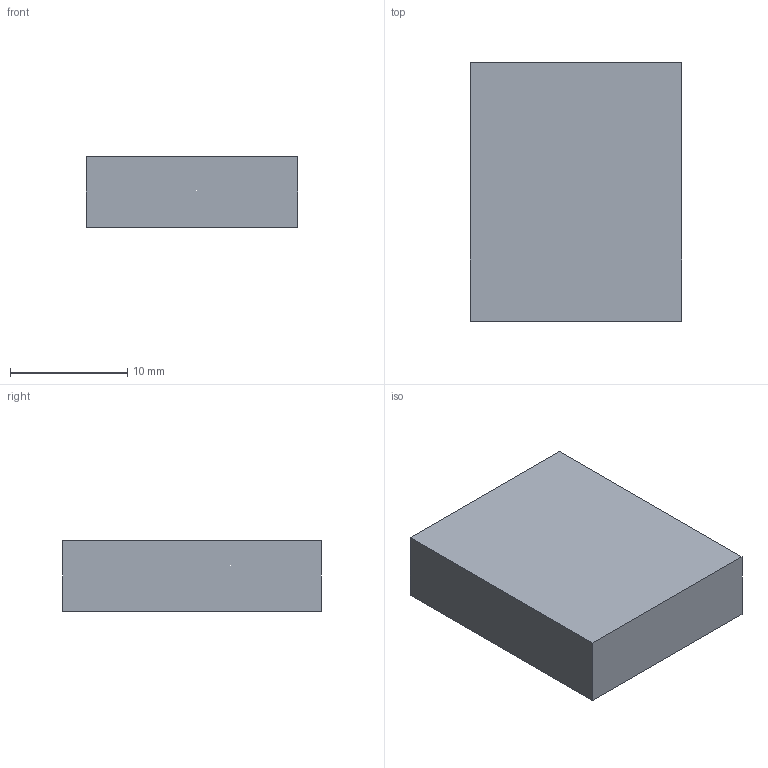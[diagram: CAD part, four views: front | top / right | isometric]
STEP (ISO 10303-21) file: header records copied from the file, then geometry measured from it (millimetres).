
FILE_DESCRIPTION(('Open CASCADE Model'),'2;1');
FILE_NAME('Open CASCADE Shape Model','2026-10-17T17:22:13',('Author'),( 'Open CASCADE'),'Open CASCADE STEP processor 7.9','Open CASCADE 7.9' ,'Unknown');
FILE_SCHEMA(('AUTOMOTIVE_DESIGN { 1 0 10303 214 1 1 1 1 }'));
Length unit declared in the file: millimetre
Products named in the file (1): Open CASCADE STEP translator 7.9 13
Bounding box: 18 x 22 x 6 mm (x, y, z)
Volume: 2376 mm3; surface area: 1272 mm2
Topology: 1 solids, 1 shells, 6 faces, 12 edges, 8 vertices
Faces by surface type: plane 6
Entity records: 322 total; most frequent: CARTESIAN_POINT 51, DIRECTION 50, LINE 36, VECTOR 36, ORIENTED_EDGE 24, PCURVE 24, DEFINITIONAL_REPRESENTATION 24, EDGE_CURVE 12
